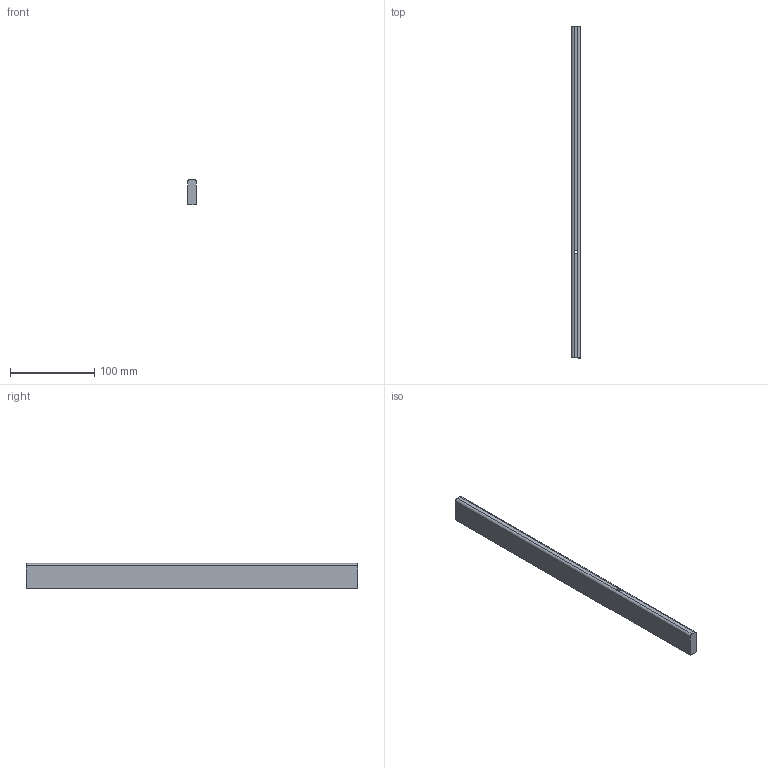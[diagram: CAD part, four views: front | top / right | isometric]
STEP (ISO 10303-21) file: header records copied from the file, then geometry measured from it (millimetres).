
FILE_DESCRIPTION (( 'STEP AP214' ), '1' );
FILE_NAME ('_Seitenreling_SP60700400_RL395.step', '2010-09-06T14:51:55', ( 'grass' ), ( '' ), 'SwSTEP 2.0', 'SolidWorks 2010', '' );
FILE_SCHEMA (( 'AUTOMOTIVE_DESIGN' ));
Length unit declared in the file: millimetre
Products named in the file (1): _Seitenreling_SP60700400_RL395
Bounding box: 10.5 x 395 x 30 mm (x, y, z)
Volume: 121980.1 mm3; surface area: 32138.5 mm2
Topology: 1 solids, 1 shells, 14 faces, 34 edges, 22 vertices
Faces by surface type: plane 8, cylinder 6
Entity records: 454 total; most frequent: DIRECTION 78, CARTESIAN_POINT 71, ORIENTED_EDGE 68, EDGE_CURVE 34, AXIS2_PLACEMENT_3D 29, VERTEX_POINT 22, VECTOR 20, LINE 20
